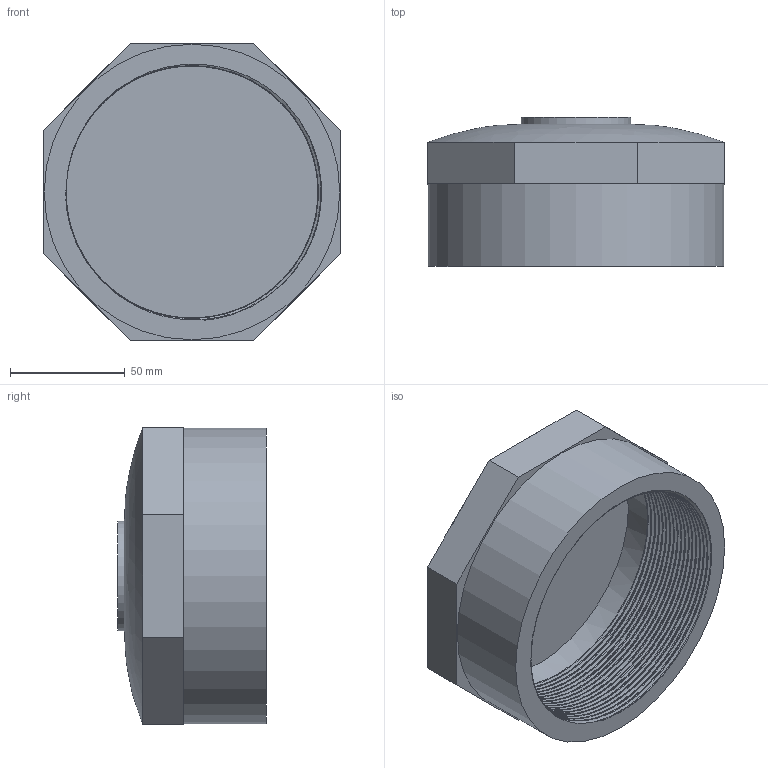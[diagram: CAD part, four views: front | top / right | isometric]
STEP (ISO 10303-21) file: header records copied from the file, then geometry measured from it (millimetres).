
FILE_DESCRIPTION(/* description */ ('PVC calotta filettata BSP'),/* implementation_level */ '2;1');
FILE_NAME(/* name */ 'C:\Users\POLYPIPE\Desktop\DATASET INVENTOR\LIBRERIA EFFAST\RACCORDI 3DxWEB\RER\3D_RERCAE\3D_RERCAE110L.stp',/* time_stamp */ '2018-01-19T15:58:08+01:00',/* author */ ('POLYPIPE'),/* organization */ ('Polypipe Italia s.r.l.'),/* preprocessor_version */ 'ST-DEVELOPER v16.1',/* originating_system */ 'Autodesk Inventor 2016',/* authorisation */ '');
FILE_SCHEMA (('CONFIG_CONTROL_DESIGN'));
Length unit declared in the file: millimetre
Products named in the file (1): 3D_RERCAE
Bounding box: 130 x 65 x 130 mm (x, y, z)
Volume: 311621.9 mm3; surface area: 77856.7 mm2
Topology: 1 solids, 1 shells, 30 faces, 68 edges, 42 vertices
Faces by surface type: plane 21, bspline 6, cylinder 3
Full cylindrical faces by diameter (mm): 48 x1, 110.072 x1, 129 x1
Entity records: 7041 total; most frequent: CARTESIAN_POINT 6392, ORIENTED_EDGE 128, DIRECTION 119, EDGE_CURVE 64, AXIS2_PLACEMENT_3D 42, VERTEX_POINT 41, LINE 35, VECTOR 35
